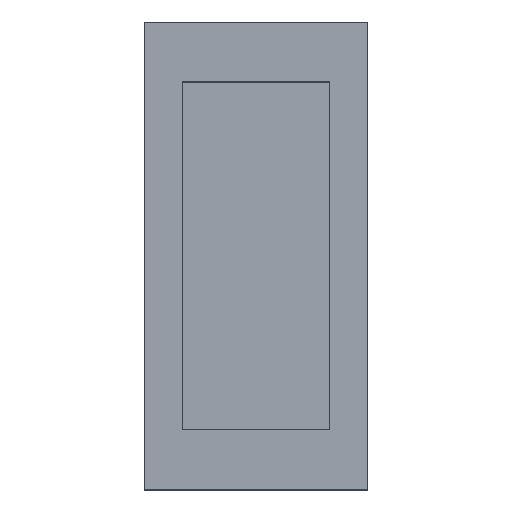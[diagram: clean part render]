
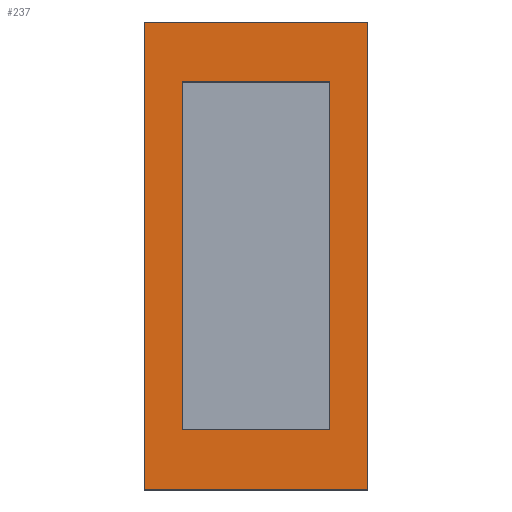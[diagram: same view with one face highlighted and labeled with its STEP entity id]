
A CAD part, top view. The second image highlights one B-rep face of the part: STEP entity #237.
In plain terms, the highlighted planar face has unit normal (0, 0, 1).
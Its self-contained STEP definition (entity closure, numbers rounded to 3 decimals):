
#19 = AXIS2_PLACEMENT_3D ( 'NONE', #658, #235, #606 ) ;
#20 = CARTESIAN_POINT ( 'NONE',  ( -28., 58.5, 9. ) ) ;
#25 = CARTESIAN_POINT ( 'NONE',  ( -28., 58.5, 9. ) ) ;
#26 = ORIENTED_EDGE ( 'NONE', *, *, #479, .F. ) ;
#28 = PLANE ( 'NONE',  #19 ) ;
#55 = LINE ( 'NONE', #312, #305 ) ;
#82 = FACE_OUTER_BOUND ( 'NONE', #463, .T. ) ;
#95 = DIRECTION ( 'NONE',  ( 0., 1., 0. ) ) ;
#98 = CARTESIAN_POINT ( 'NONE',  ( 18.5, 43.5, 9. ) ) ;
#99 = VECTOR ( 'NONE', #178, 1000. ) ;
#116 = CARTESIAN_POINT ( 'NONE',  ( 18.5, 43.5, 9. ) ) ;
#119 = DIRECTION ( 'NONE',  ( 0., -1., 0. ) ) ;
#123 = DIRECTION ( 'NONE',  ( 1., 0., 0. ) ) ;
#153 = LINE ( 'NONE', #193, #634 ) ;
#168 = VERTEX_POINT ( 'NONE', #25 ) ;
#171 = EDGE_CURVE ( 'NONE', #168, #319, #390, .T. ) ;
#172 = CARTESIAN_POINT ( 'NONE',  ( 28., -58.5, 9. ) ) ;
#178 = DIRECTION ( 'NONE',  ( -1., 0., 0. ) ) ;
#193 = CARTESIAN_POINT ( 'NONE',  ( 28., -58.5, 9. ) ) ;
#201 = CARTESIAN_POINT ( 'NONE',  ( -28., -58.5, 9. ) ) ;
#203 = LINE ( 'NONE', #201, #311 ) ;
#204 = ORIENTED_EDGE ( 'NONE', *, *, #627, .F. ) ;
#222 = LINE ( 'NONE', #649, #664 ) ;
#229 = CARTESIAN_POINT ( 'NONE',  ( -18.5, -43.5, 9. ) ) ;
#231 = ORIENTED_EDGE ( 'NONE', *, *, #357, .T. ) ;
#235 = DIRECTION ( 'NONE',  ( 0., 0., 1. ) ) ;
#236 = VERTEX_POINT ( 'NONE', #384 ) ;
#237 = ADVANCED_FACE ( 'NONE', ( #333, #82 ), #28, .T. ) ;
#241 = VECTOR ( 'NONE', #123, 1000. ) ;
#248 = CARTESIAN_POINT ( 'NONE',  ( 18.5, -43.5, 9. ) ) ;
#254 = ORIENTED_EDGE ( 'NONE', *, *, #171, .T. ) ;
#260 = CARTESIAN_POINT ( 'NONE',  ( 28., 58.5, 9. ) ) ;
#285 = VECTOR ( 'NONE', #414, 1000. ) ;
#302 = CARTESIAN_POINT ( 'NONE',  ( -28., -58.5, 9. ) ) ;
#305 = VECTOR ( 'NONE', #119, 1000. ) ;
#311 = VECTOR ( 'NONE', #454, 1000. ) ;
#312 = CARTESIAN_POINT ( 'NONE',  ( -18.5, 43.5, 9. ) ) ;
#314 = EDGE_CURVE ( 'NONE', #619, #493, #153, .T. ) ;
#319 = VERTEX_POINT ( 'NONE', #302 ) ;
#333 = FACE_BOUND ( 'NONE', #436, .T. ) ;
#354 = ORIENTED_EDGE ( 'NONE', *, *, #314, .T. ) ;
#357 = EDGE_CURVE ( 'NONE', #319, #619, #203, .T. ) ;
#367 = VECTOR ( 'NONE', #533, 1000. ) ;
#371 = ORIENTED_EDGE ( 'NONE', *, *, #434, .F. ) ;
#374 = VERTEX_POINT ( 'NONE', #98 ) ;
#384 = CARTESIAN_POINT ( 'NONE',  ( -18.5, 43.5, 9. ) ) ;
#386 = VERTEX_POINT ( 'NONE', #248 ) ;
#390 = LINE ( 'NONE', #20, #367 ) ;
#414 = DIRECTION ( 'NONE',  ( -1., 0., 0. ) ) ;
#426 = CARTESIAN_POINT ( 'NONE',  ( -18.5, -43.5, 9. ) ) ;
#434 = EDGE_CURVE ( 'NONE', #374, #236, #583, .T. ) ;
#436 = EDGE_LOOP ( 'NONE', ( #26, #371, #474, #204 ) ) ;
#454 = DIRECTION ( 'NONE',  ( 1., 0., 0. ) ) ;
#463 = EDGE_LOOP ( 'NONE', ( #231, #354, #615, #254 ) ) ;
#474 = ORIENTED_EDGE ( 'NONE', *, *, #614, .F. ) ;
#479 = EDGE_CURVE ( 'NONE', #236, #671, #55, .T. ) ;
#481 = LINE ( 'NONE', #426, #241 ) ;
#491 = LINE ( 'NONE', #656, #99 ) ;
#493 = VERTEX_POINT ( 'NONE', #260 ) ;
#533 = DIRECTION ( 'NONE',  ( 0., -1., 0. ) ) ;
#539 = DIRECTION ( 'NONE',  ( 0., 1., 0. ) ) ;
#583 = LINE ( 'NONE', #116, #285 ) ;
#606 = DIRECTION ( 'NONE',  ( 1., 0., 0. ) ) ;
#614 = EDGE_CURVE ( 'NONE', #386, #374, #222, .T. ) ;
#615 = ORIENTED_EDGE ( 'NONE', *, *, #662, .T. ) ;
#619 = VERTEX_POINT ( 'NONE', #172 ) ;
#627 = EDGE_CURVE ( 'NONE', #671, #386, #481, .T. ) ;
#634 = VECTOR ( 'NONE', #95, 1000. ) ;
#649 = CARTESIAN_POINT ( 'NONE',  ( 18.5, -43.5, 9. ) ) ;
#656 = CARTESIAN_POINT ( 'NONE',  ( 28., 58.5, 9. ) ) ;
#658 = CARTESIAN_POINT ( 'NONE',  ( 0., 0., 9. ) ) ;
#662 = EDGE_CURVE ( 'NONE', #493, #168, #491, .T. ) ;
#664 = VECTOR ( 'NONE', #539, 1000. ) ;
#671 = VERTEX_POINT ( 'NONE', #229 ) ;
